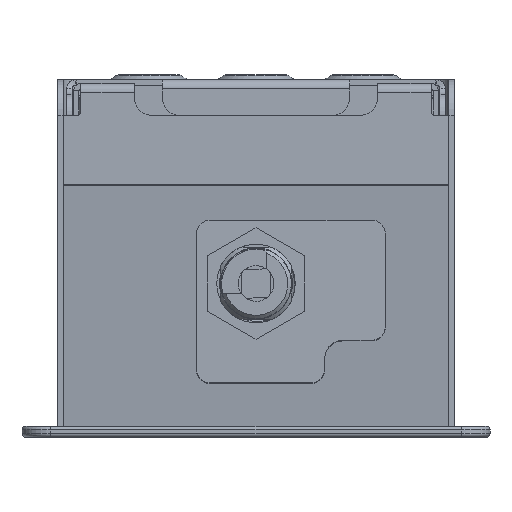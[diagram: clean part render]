
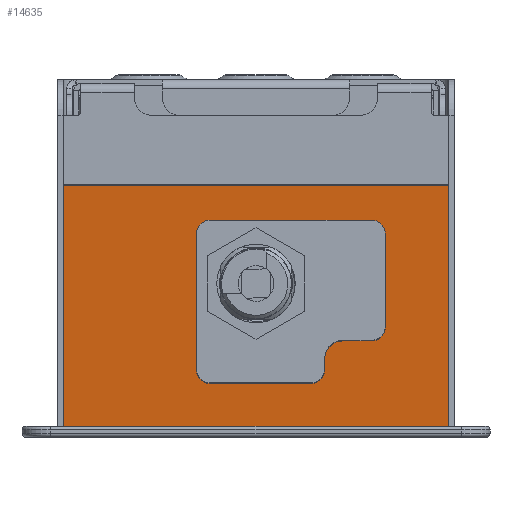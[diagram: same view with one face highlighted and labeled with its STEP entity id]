
A CAD part, front view. The second image highlights one B-rep face of the part: STEP entity #14635.
In plain terms, the highlighted planar face has unit normal (0, -0.995, -0.104) as drawn and (-0.105, -0.995, 0) by its records, which use the part's own axes.
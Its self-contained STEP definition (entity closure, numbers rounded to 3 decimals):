
#582=FACE_BOUND('',#2033,.T.);
#1142=FACE_OUTER_BOUND('',#2032,.T.);
#2032=EDGE_LOOP('',(#10794,#10795,#10796,#10797));
#2033=EDGE_LOOP('',(#10798,#10799,#10800,#10801,#10802,#10803,#10804,#10805,
#10806,#10807,#10808,#10809));
#3063=LINE('',#22117,#4584);
#3071=LINE('',#22138,#4592);
#3074=LINE('',#22143,#4595);
#3075=LINE('',#22144,#4596);
#3076=LINE('',#22149,#4597);
#3077=LINE('',#22153,#4598);
#3078=LINE('',#22157,#4599);
#3079=LINE('',#22161,#4600);
#3080=LINE('',#22165,#4601);
#3081=LINE('',#22168,#4602);
#4584=VECTOR('',#17901,67.639);
#4592=VECTOR('',#17919,67.639);
#4595=VECTOR('',#17924,107.8);
#4596=VECTOR('',#17925,107.8);
#4597=VECTOR('',#17928,26.);
#4598=VECTOR('',#17931,8.);
#4599=VECTOR('',#17934,3.);
#4600=VECTOR('',#17937,28.);
#4601=VECTOR('',#17940,38.);
#4602=VECTOR('',#17943,45.);
#5965=CIRCLE('',#15725,4.);
#5966=CIRCLE('',#15726,4.);
#5967=CIRCLE('',#15727,5.);
#5968=CIRCLE('',#15728,4.);
#5969=CIRCLE('',#15729,4.);
#5970=CIRCLE('',#15730,4.);
#6575=VERTEX_POINT('',#22112);
#6576=VERTEX_POINT('',#22116);
#6583=VERTEX_POINT('',#22132);
#6584=VERTEX_POINT('',#22137);
#6586=VERTEX_POINT('',#22145);
#6587=VERTEX_POINT('',#22146);
#6588=VERTEX_POINT('',#22148);
#6589=VERTEX_POINT('',#22150);
#6590=VERTEX_POINT('',#22152);
#6591=VERTEX_POINT('',#22154);
#6592=VERTEX_POINT('',#22156);
#6593=VERTEX_POINT('',#22158);
#6594=VERTEX_POINT('',#22160);
#6595=VERTEX_POINT('',#22162);
#6596=VERTEX_POINT('',#22164);
#6597=VERTEX_POINT('',#22166);
#8144=EDGE_CURVE('',#6575,#6576,#3063,.T.);
#8154=EDGE_CURVE('',#6584,#6583,#3071,.T.);
#8157=EDGE_CURVE('',#6584,#6576,#3074,.T.);
#8158=EDGE_CURVE('',#6583,#6575,#3075,.T.);
#8159=EDGE_CURVE('',#6586,#6587,#5965,.T.);
#8160=EDGE_CURVE('',#6587,#6588,#3076,.T.);
#8161=EDGE_CURVE('',#6588,#6589,#5966,.T.);
#8162=EDGE_CURVE('',#6589,#6590,#3077,.T.);
#8163=EDGE_CURVE('',#6590,#6591,#5967,.T.);
#8164=EDGE_CURVE('',#6591,#6592,#3078,.T.);
#8165=EDGE_CURVE('',#6592,#6593,#5968,.T.);
#8166=EDGE_CURVE('',#6593,#6594,#3079,.T.);
#8167=EDGE_CURVE('',#6594,#6595,#5969,.T.);
#8168=EDGE_CURVE('',#6595,#6596,#3080,.T.);
#8169=EDGE_CURVE('',#6596,#6597,#5970,.T.);
#8170=EDGE_CURVE('',#6597,#6586,#3081,.T.);
#10794=ORIENTED_EDGE('',*,*,#8144,.T.);
#10795=ORIENTED_EDGE('',*,*,#8157,.F.);
#10796=ORIENTED_EDGE('',*,*,#8154,.T.);
#10797=ORIENTED_EDGE('',*,*,#8158,.T.);
#10798=ORIENTED_EDGE('',*,*,#8159,.T.);
#10799=ORIENTED_EDGE('',*,*,#8160,.T.);
#10800=ORIENTED_EDGE('',*,*,#8161,.T.);
#10801=ORIENTED_EDGE('',*,*,#8162,.T.);
#10802=ORIENTED_EDGE('',*,*,#8163,.T.);
#10803=ORIENTED_EDGE('',*,*,#8164,.T.);
#10804=ORIENTED_EDGE('',*,*,#8165,.T.);
#10805=ORIENTED_EDGE('',*,*,#8166,.T.);
#10806=ORIENTED_EDGE('',*,*,#8167,.T.);
#10807=ORIENTED_EDGE('',*,*,#8168,.T.);
#10808=ORIENTED_EDGE('',*,*,#8169,.T.);
#10809=ORIENTED_EDGE('',*,*,#8170,.T.);
#13953=PLANE('',#15724);
#14635=ADVANCED_FACE('',(#1142,#582),#13953,.F.);
#15724=AXIS2_PLACEMENT_3D('',#22142,#17922,#17923);
#15725=AXIS2_PLACEMENT_3D('',#22147,#17926,#17927);
#15726=AXIS2_PLACEMENT_3D('',#22151,#17929,#17930);
#15727=AXIS2_PLACEMENT_3D('',#22155,#17932,#17933);
#15728=AXIS2_PLACEMENT_3D('',#22159,#17935,#17936);
#15729=AXIS2_PLACEMENT_3D('',#22163,#17938,#17939);
#15730=AXIS2_PLACEMENT_3D('',#22167,#17941,#17942);
#17901=DIRECTION('',(-0.995,0.105,0.));
#17919=DIRECTION('',(0.995,-0.105,0.));
#17922=DIRECTION('center_axis',(0.105,0.995,0.));
#17923=DIRECTION('ref_axis',(0.,0.,1.));
#17924=DIRECTION('',(0.,0.,1.));
#17925=DIRECTION('',(0.,0.,1.));
#17926=DIRECTION('center_axis',(0.105,0.995,0.));
#17927=DIRECTION('ref_axis',(0.,0.,
1.));
#17928=DIRECTION('',(-0.995,0.105,0.));
#17929=DIRECTION('center_axis',(0.105,0.995,0.));
#17930=DIRECTION('ref_axis',(0.995,-0.105,0.));
#17931=DIRECTION('',(0.,0.,1.));
#17932=DIRECTION('center_axis',(-0.105,-0.995,0.));
#17933=DIRECTION('ref_axis',(0.995,-0.105,0.));
#17934=DIRECTION('',(-0.995,0.105,0.));
#17935=DIRECTION('center_axis',(0.105,0.995,0.));
#17936=DIRECTION('ref_axis',(0.995,-0.105,0.));
#17937=DIRECTION('',(0.,0.,1.));
#17938=DIRECTION('center_axis',(0.105,0.995,0.));
#17939=DIRECTION('ref_axis',(0.,0.,
-1.));
#17940=DIRECTION('',(0.995,-0.105,0.));
#17941=DIRECTION('center_axis',(0.105,0.995,0.));
#17942=DIRECTION('ref_axis',(-0.995,0.105,0.));
#17943=DIRECTION('',(0.,0.,-1.));
#22112=CARTESIAN_POINT('',(-19.688,-1.486,53.9));
#22116=CARTESIAN_POINT('',(-86.957,5.584,53.9));
#22117=CARTESIAN_POINT('',(-31.638,-0.23,53.9));
#22132=CARTESIAN_POINT('',(-19.688,-1.486,-53.9));
#22137=CARTESIAN_POINT('',(-86.957,5.584,-53.9));
#22138=CARTESIAN_POINT('',(-65.272,3.305,-53.9));
#22142=CARTESIAN_POINT('Origin',(-43.588,1.026,0.));
#22143=CARTESIAN_POINT('',(-86.957,5.584,-73.25));
#22144=CARTESIAN_POINT('',(-19.688,-1.486,0.));
#22145=CARTESIAN_POINT('',(-29.275,-0.479,-32.25));
#22146=CARTESIAN_POINT('',(-33.253,-0.061,-36.25));
#22147=CARTESIAN_POINT('Origin',(-33.253,-0.061,
-32.25));
#22148=CARTESIAN_POINT('',(-59.11,2.657,-36.25));
#22149=CARTESIAN_POINT('',(-51.349,1.841,-36.25));
#22150=CARTESIAN_POINT('',(-63.088,3.075,-32.25));
#22151=CARTESIAN_POINT('Origin',(-59.11,2.657,-32.25));
#22152=CARTESIAN_POINT('',(-63.088,3.075,-24.25));
#22153=CARTESIAN_POINT('',(-63.088,3.075,-12.125));
#22154=CARTESIAN_POINT('',(-68.061,3.598,-19.25));
#22155=CARTESIAN_POINT('Origin',(-68.061,3.598,-24.25));
#22156=CARTESIAN_POINT('',(-71.044,3.911,-19.25));
#22157=CARTESIAN_POINT('',(-57.316,2.469,-19.25));
#22158=CARTESIAN_POINT('',(-75.023,4.33,-15.25));
#22159=CARTESIAN_POINT('Origin',(-71.044,3.911,-15.25));
#22160=CARTESIAN_POINT('',(-75.023,4.33,12.75));
#22161=CARTESIAN_POINT('',(-75.023,4.33,6.375));
#22162=CARTESIAN_POINT('',(-71.044,3.911,16.75));
#22163=CARTESIAN_POINT('Origin',(-71.044,3.911,12.75));
#22164=CARTESIAN_POINT('',(-33.253,-0.061,16.75));
#22165=CARTESIAN_POINT('',(-38.42,0.483,16.75));
#22166=CARTESIAN_POINT('',(-29.275,-0.479,12.75));
#22167=CARTESIAN_POINT('Origin',(-33.253,-0.061,
12.75));
#22168=CARTESIAN_POINT('',(-29.275,-0.479,-16.125));
